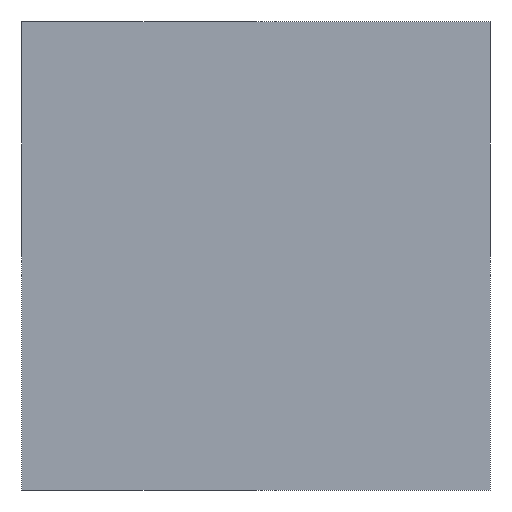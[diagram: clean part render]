
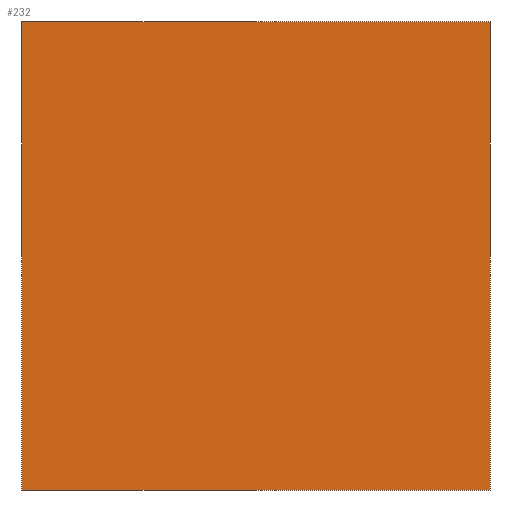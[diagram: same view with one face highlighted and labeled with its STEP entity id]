
A CAD part, front view. The second image highlights one B-rep face of the part: STEP entity #232.
In plain terms, the highlighted planar face has unit normal (0, -1, 0).
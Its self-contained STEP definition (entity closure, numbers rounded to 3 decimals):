
#7 = LINE ( 'NONE', #228, #274 ) ;
#25 = ORIENTED_EDGE ( 'NONE', *, *, #82, .F. ) ;
#46 = CARTESIAN_POINT ( 'NONE',  ( -25., -60., 25. ) ) ;
#49 = DIRECTION ( 'NONE',  ( 0., 0., 1. ) ) ;
#82 = EDGE_CURVE ( 'NONE', #292, #194, #334, .T. ) ;
#96 = ORIENTED_EDGE ( 'NONE', *, *, #396, .F. ) ;
#97 = DIRECTION ( 'NONE',  ( 1., 0., 0. ) ) ;
#117 = VECTOR ( 'NONE', #49, 1000. ) ;
#130 = VERTEX_POINT ( 'NONE', #393 ) ;
#141 = FACE_OUTER_BOUND ( 'NONE', #478, .T. ) ;
#167 = AXIS2_PLACEMENT_3D ( 'NONE', #712, #700, #585 ) ;
#194 = VERTEX_POINT ( 'NONE', #46 ) ;
#218 = VECTOR ( 'NONE', #97, 1000. ) ;
#228 = CARTESIAN_POINT ( 'NONE',  ( 25., -60., 25. ) ) ;
#229 = ORIENTED_EDGE ( 'NONE', *, *, #592, .F. ) ;
#232 = ADVANCED_FACE ( 'NONE', ( #141 ), #650, .T. ) ;
#274 = VECTOR ( 'NONE', #345, 1000. ) ;
#278 = CARTESIAN_POINT ( 'NONE',  ( -25., -60., 25. ) ) ;
#292 = VERTEX_POINT ( 'NONE', #486 ) ;
#295 = ORIENTED_EDGE ( 'NONE', *, *, #409, .F. ) ;
#319 = DIRECTION ( 'NONE',  ( -1., 0., 0. ) ) ;
#334 = LINE ( 'NONE', #278, #117 ) ;
#345 = DIRECTION ( 'NONE',  ( 0., 0., -1. ) ) ;
#377 = CARTESIAN_POINT ( 'NONE',  ( -25., -60., -25. ) ) ;
#393 = CARTESIAN_POINT ( 'NONE',  ( 25., -60., -25. ) ) ;
#396 = EDGE_CURVE ( 'NONE', #130, #292, #602, .T. ) ;
#409 = EDGE_CURVE ( 'NONE', #194, #682, #482, .T. ) ;
#435 = VECTOR ( 'NONE', #319, 1000. ) ;
#478 = EDGE_LOOP ( 'NONE', ( #229, #295, #25, #96 ) ) ;
#482 = LINE ( 'NONE', #695, #218 ) ;
#486 = CARTESIAN_POINT ( 'NONE',  ( -25., -60., -25. ) ) ;
#585 = DIRECTION ( 'NONE',  ( 0., 0., -1. ) ) ;
#592 = EDGE_CURVE ( 'NONE', #682, #130, #7, .T. ) ;
#602 = LINE ( 'NONE', #377, #435 ) ;
#650 = PLANE ( 'NONE',  #167 ) ;
#682 = VERTEX_POINT ( 'NONE', #683 ) ;
#683 = CARTESIAN_POINT ( 'NONE',  ( 25., -60., 25. ) ) ;
#695 = CARTESIAN_POINT ( 'NONE',  ( -25., -60., 25. ) ) ;
#700 = DIRECTION ( 'NONE',  ( 0., -1., 0. ) ) ;
#712 = CARTESIAN_POINT ( 'NONE',  ( 0., -60., 0. ) ) ;
